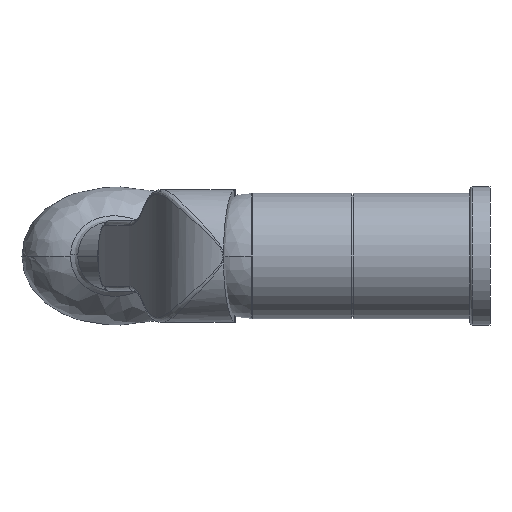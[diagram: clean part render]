
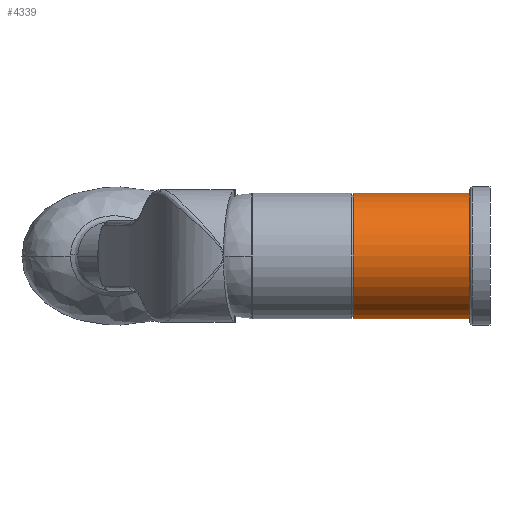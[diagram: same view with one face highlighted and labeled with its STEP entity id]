
A CAD part, left-side view. The second image highlights one B-rep face of the part: STEP entity #4339.
In plain terms, the highlighted cylindrical face has radius 25 mm (diameter 50 mm), a partial arc.
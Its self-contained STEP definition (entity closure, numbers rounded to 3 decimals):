
#296 = EDGE_CURVE ( 'NONE', #2385, #3847, #6353, .T. ) ;
#559 = EDGE_LOOP ( 'NONE', ( #1016, #5715, #2563, #2358 ) ) ;
#709 = DIRECTION ( 'NONE',  ( 0., 0., 1. ) ) ;
#916 = CARTESIAN_POINT ( 'NONE',  ( 0., 54.5, 0. ) ) ;
#1013 = DIRECTION ( 'NONE',  ( 0., -1., 0. ) ) ;
#1016 = ORIENTED_EDGE ( 'NONE', *, *, #3711, .F. ) ;
#1402 = FACE_OUTER_BOUND ( 'NONE', #559, .T. ) ;
#1413 = AXIS2_PLACEMENT_3D ( 'NONE', #5921, #4128, #709 ) ;
#1548 = AXIS2_PLACEMENT_3D ( 'NONE', #5700, #1013, #3898 ) ;
#1679 = CARTESIAN_POINT ( 'NONE',  ( 0., 55., -25. ) ) ;
#1782 = VERTEX_POINT ( 'NONE', #1899 ) ;
#1899 = CARTESIAN_POINT ( 'NONE',  ( 0., 54.5, -25. ) ) ;
#2322 = VECTOR ( 'NONE', #5571, 1000. ) ;
#2358 = ORIENTED_EDGE ( 'NONE', *, *, #296, .T. ) ;
#2385 = VERTEX_POINT ( 'NONE', #3539 ) ;
#2563 = ORIENTED_EDGE ( 'NONE', *, *, #5809, .T. ) ;
#2568 = CYLINDRICAL_SURFACE ( 'NONE', #1548, 25. ) ;
#2719 = VERTEX_POINT ( 'NONE', #4179 ) ;
#3451 = CARTESIAN_POINT ( 'NONE',  ( 0., 8., 25. ) ) ;
#3539 = CARTESIAN_POINT ( 'NONE',  ( 0., 8., -25. ) ) ;
#3711 = EDGE_CURVE ( 'NONE', #2719, #3847, #5405, .T. ) ;
#3846 = LINE ( 'NONE', #1679, #5782 ) ;
#3847 = VERTEX_POINT ( 'NONE', #3451 ) ;
#3898 = DIRECTION ( 'NONE',  ( 0., 0., -1. ) ) ;
#4051 = DIRECTION ( 'NONE',  ( 0., -1., 0. ) ) ;
#4128 = DIRECTION ( 'NONE',  ( 0., 1., 0. ) ) ;
#4179 = CARTESIAN_POINT ( 'NONE',  ( 0., 54.5, 25. ) ) ;
#4339 = ADVANCED_FACE ( 'NONE', ( #1402 ), #2568, .T. ) ;
#4435 = DIRECTION ( 'NONE',  ( 0., 1., 0. ) ) ;
#4502 = CIRCLE ( 'NONE', #6651, 25. ) ;
#4713 = EDGE_CURVE ( 'NONE', #1782, #2719, #4502, .T. ) ;
#5405 = LINE ( 'NONE', #5522, #2322 ) ;
#5522 = CARTESIAN_POINT ( 'NONE',  ( 0., 55., 25. ) ) ;
#5571 = DIRECTION ( 'NONE',  ( 0., -1., 0. ) ) ;
#5604 = DIRECTION ( 'NONE',  ( 0., 0., 1. ) ) ;
#5700 = CARTESIAN_POINT ( 'NONE',  ( 0., 55., 0. ) ) ;
#5715 = ORIENTED_EDGE ( 'NONE', *, *, #4713, .F. ) ;
#5782 = VECTOR ( 'NONE', #4051, 1000. ) ;
#5809 = EDGE_CURVE ( 'NONE', #1782, #2385, #3846, .T. ) ;
#5921 = CARTESIAN_POINT ( 'NONE',  ( 0., 8., 0. ) ) ;
#6353 = CIRCLE ( 'NONE', #1413, 25. ) ;
#6651 = AXIS2_PLACEMENT_3D ( 'NONE', #916, #4435, #5604 ) ;
